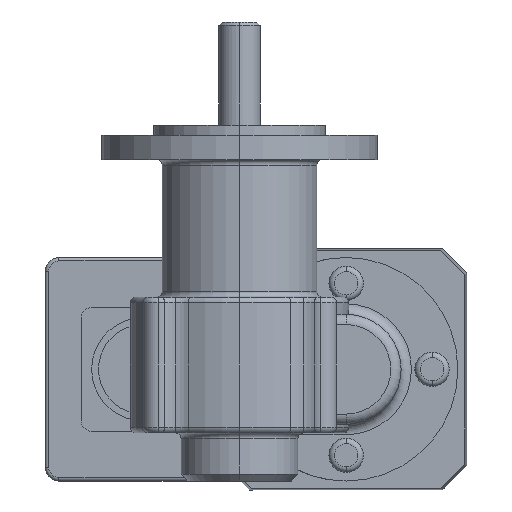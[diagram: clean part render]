
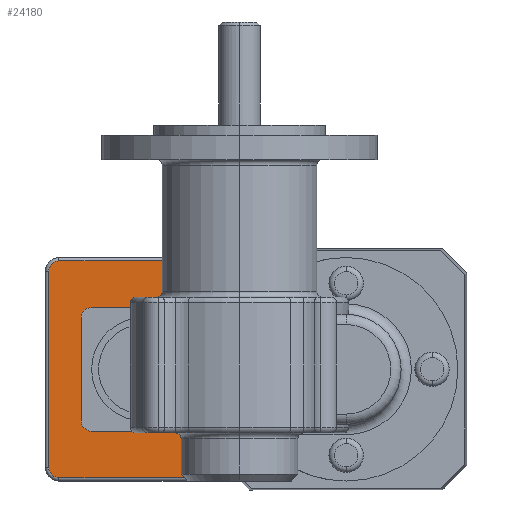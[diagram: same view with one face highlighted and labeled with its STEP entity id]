
A CAD part, left-side view. The second image highlights one B-rep face of the part: STEP entity #24180.
In plain terms, the highlighted planar face has unit normal (-1, 0, 0) as drawn and (0, 0, 1) by its records, which use the part's own axes.
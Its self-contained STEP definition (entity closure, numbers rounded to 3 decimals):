
#880=CARTESIAN_POINT('',(-148.458,-220.478,
-59.5));
#890=DIRECTION('',(0.,0.,1.));
#900=DIRECTION('',(1.,0.,0.));
#910=AXIS2_PLACEMENT_3D('',#880,#890,#900);
#920=CIRCLE('',#910,3.);
#930=CARTESIAN_POINT('',(-148.458,-217.478,
-59.5));
#940=VERTEX_POINT('',#930);
#950=CARTESIAN_POINT('',(-151.458,-220.478,
-59.5));
#960=VERTEX_POINT('',#950);
#970=EDGE_CURVE('',#940,#960,#920,.T.);
#7050=CARTESIAN_POINT('',(-151.458,-305.92,
-59.5));
#7060=DIRECTION('',(0.,1.,0.));
#7070=VECTOR('',#7060,1.);
#7080=LINE('',#7050,#7070);
#7090=CARTESIAN_POINT('',(-151.458,-250.478,
-59.5));
#7100=VERTEX_POINT('',#7090);
#7110=EDGE_CURVE('',#7100,#960,#7080,.T.);
#7340=CARTESIAN_POINT('',(-161.958,-207.978,
-59.5));
#7350=VERTEX_POINT('',#7340);
#7380=CARTESIAN_POINT('',(-161.958,-210.978,
-59.5));
#7390=DIRECTION('',(0.,0.,-1.));
#7400=DIRECTION('',(-1.,0.,0.));
#7410=AXIS2_PLACEMENT_3D('',#7380,#7390,#7400);
#7420=CIRCLE('',#7410,3.);
#7430=CARTESIAN_POINT('',(-164.958,-210.978,
-59.5));
#7440=VERTEX_POINT('',#7430);
#7450=EDGE_CURVE('',#7440,#7350,#7420,.T.);
#18190=CARTESIAN_POINT('',(-104.958,-207.978,
-59.5));
#18200=VERTEX_POINT('',#18190);
#18230=CARTESIAN_POINT('',(-121.85,-207.978,
-59.5));
#18240=DIRECTION('',(-1.,0.,0.));
#18250=VECTOR('',#18240,1.);
#18260=LINE('',#18230,#18250);
#18270=EDGE_CURVE('',#18200,#7350,#18260,.T.);
#18590=CARTESIAN_POINT('',(-101.958,-210.978,
-59.5));
#18600=VERTEX_POINT('',#18590);
#18630=CARTESIAN_POINT('',(-104.958,-210.978,
-59.5));
#18640=DIRECTION('',(0.,0.,-1.));
#18650=DIRECTION('',(-1.,0.,0.));
#18660=AXIS2_PLACEMENT_3D('',#18630,#18640,#18650);
#18670=CIRCLE('',#18660,3.);
#18680=EDGE_CURVE('',#18200,#18600,#18670,.T.);
#19220=CARTESIAN_POINT('',(-118.458,-217.478,
-59.5));
#19230=VERTEX_POINT('',#19220);
#19280=CARTESIAN_POINT('',(-121.85,-217.478,
-59.5));
#19290=DIRECTION('',(1.,0.,0.));
#19300=VECTOR('',#19290,1.);
#19310=LINE('',#19280,#19300);
#19320=EDGE_CURVE('',#940,#19230,#19310,.T.);
#22170=CARTESIAN_POINT('',(-115.458,-250.478,
-59.5));
#22180=VERTEX_POINT('',#22170);
#22210=CARTESIAN_POINT('',(-118.458,-250.478,
-59.5));
#22220=DIRECTION('',(0.,0.,1.));
#22230=DIRECTION('',(1.,0.,0.));
#22240=AXIS2_PLACEMENT_3D('',#22210,#22220,#22230);
#22250=CIRCLE('',#22240,3.);
#22260=CARTESIAN_POINT('',(-118.458,-253.478,
-59.5));
#22270=VERTEX_POINT('',#22260);
#22280=EDGE_CURVE('',#22270,#22180,#22250,.T.);
#22520=CARTESIAN_POINT('',(-164.958,-305.92,
-59.5));
#22530=DIRECTION('',(0.,-1.,0.));
#22540=VECTOR('',#22530,1.);
#22550=LINE('',#22520,#22540);
#22560=CARTESIAN_POINT('',(-164.958,-264.268,
-59.5));
#22570=VERTEX_POINT('',#22560);
#22580=EDGE_CURVE('',#7440,#22570,#22550,.T.);
#22900=CARTESIAN_POINT('',(-115.458,-305.92,
-59.5));
#22910=DIRECTION('',(0.,-1.,0.));
#22920=VECTOR('',#22910,1.);
#22930=LINE('',#22900,#22920);
#22940=CARTESIAN_POINT('',(-115.458,-220.478,
-59.5));
#22950=VERTEX_POINT('',#22940);
#22960=EDGE_CURVE('',#22950,#22180,#22930,.T.);
#23410=CARTESIAN_POINT('',(-148.458,-253.478,
-59.5));
#23420=VERTEX_POINT('',#23410);
#23450=CARTESIAN_POINT('',(-148.458,-250.478,
-59.5));
#23460=DIRECTION('',(0.,0.,1.));
#23470=DIRECTION('',(1.,0.,0.));
#23480=AXIS2_PLACEMENT_3D('',#23450,#23460,#23470);
#23490=CIRCLE('',#23480,3.);
#23500=EDGE_CURVE('',#7100,#23420,#23490,.T.);
#23560=CARTESIAN_POINT('',(-106.641,-253.159,
-59.5));
#23570=DIRECTION('',(0.,0.,1.));
#23580=DIRECTION('',(0.,-1.,0.));
#23590=AXIS2_PLACEMENT_3D('',#23560,#23570,#23580);
#23600=PLANE('',#23590);
#23610=CARTESIAN_POINT('',(-185.187,-284.497,
-59.5));
#23620=DIRECTION('',(-0.707,-0.707,
0.));
#23630=VECTOR('',#23620,1.);
#23640=LINE('',#23610,#23630);
#23650=CARTESIAN_POINT('',(-160.958,-260.268,
-59.5));
#23660=VERTEX_POINT('',#23650);
#23670=EDGE_CURVE('',#23660,#22570,#23640,.T.);
#23680=ORIENTED_EDGE('',*,*,#23670,.F.);
#23690=ORIENTED_EDGE('',*,*,#22580,.T.);
#23700=ORIENTED_EDGE('',*,*,#7450,.F.);
#23710=ORIENTED_EDGE('',*,*,#18270,.T.);
#23720=ORIENTED_EDGE('',*,*,#18680,.F.);
#23730=CARTESIAN_POINT('',(-101.958,-305.92,
-59.5));
#23740=DIRECTION('',(0.,1.,0.));
#23750=VECTOR('',#23740,1.);
#23760=LINE('',#23730,#23750);
#23770=CARTESIAN_POINT('',(-101.958,-264.268,
-59.5));
#23780=VERTEX_POINT('',#23770);
#23790=EDGE_CURVE('',#23780,#18600,#23760,.T.);
#23800=ORIENTED_EDGE('',*,*,#23790,.T.);
#23810=CARTESIAN_POINT('',(-81.728,-284.497,
-59.5));
#23820=DIRECTION('',(-0.707,0.707,
0.));
#23830=VECTOR('',#23820,1.);
#23840=LINE('',#23810,#23830);
#23850=CARTESIAN_POINT('',(-105.958,-260.268,
-59.5));
#23860=VERTEX_POINT('',#23850);
#23870=EDGE_CURVE('',#23780,#23860,#23840,.T.);
#23880=ORIENTED_EDGE('',*,*,#23870,.F.);
#23890=CARTESIAN_POINT('',(-132.613,-260.268,
-59.5));
#23900=DIRECTION('',(-1.,0.,0.));
#23910=VECTOR('',#23900,1.);
#23920=LINE('',#23890,#23910);
#23930=EDGE_CURVE('',#23860,#23660,#23920,.T.);
#23940=ORIENTED_EDGE('',*,*,#23930,.F.);
#23950=EDGE_LOOP('',(#23940,#23880,#23800,#23720,#23710,#23700,#23690,
#23680));
#23960=FACE_OUTER_BOUND('',#23950,.T.);
#23970=ORIENTED_EDGE('',*,*,#23500,.F.);
#23980=CARTESIAN_POINT('',(-121.85,-253.478,
-59.5));
#23990=DIRECTION('',(-1.,0.,0.));
#24000=VECTOR('',#23990,1.);
#24010=LINE('',#23980,#24000);
#24020=EDGE_CURVE('',#22270,#23420,#24010,.T.);
#24030=ORIENTED_EDGE('',*,*,#24020,.T.);
#24040=ORIENTED_EDGE('',*,*,#22280,.F.);
#24050=ORIENTED_EDGE('',*,*,#22960,.T.);
#24060=CARTESIAN_POINT('',(-118.458,-220.478,
-59.5));
#24070=DIRECTION('',(0.,0.,1.));
#24080=DIRECTION('',(1.,0.,0.));
#24090=AXIS2_PLACEMENT_3D('',#24060,#24070,#24080);
#24100=CIRCLE('',#24090,3.);
#24110=EDGE_CURVE('',#22950,#19230,#24100,.T.);
#24120=ORIENTED_EDGE('',*,*,#24110,.F.);
#24130=ORIENTED_EDGE('',*,*,#19320,.T.);
#24140=ORIENTED_EDGE('',*,*,#970,.F.);
#24150=ORIENTED_EDGE('',*,*,#7110,.T.);
#24160=EDGE_LOOP('',(#24150,#24140,#24130,#24120,#24050,#24040,#24030,
#23970));
#24170=FACE_BOUND('',#24160,.T.);
#24180=ADVANCED_FACE('',(#23960,#24170),#23600,.T.);
